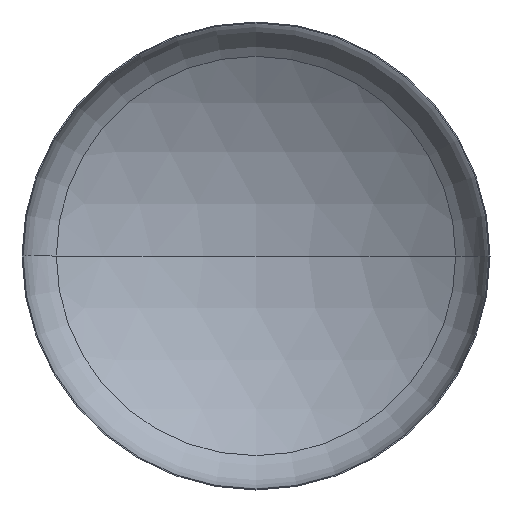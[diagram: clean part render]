
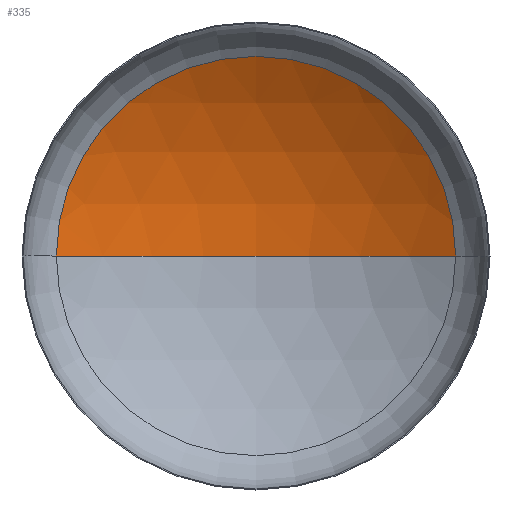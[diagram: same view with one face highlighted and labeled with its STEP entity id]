
A CAD part, front view. The second image highlights one B-rep face of the part: STEP entity #335.
In plain terms, the highlighted spherical face has radius 1520 mm.
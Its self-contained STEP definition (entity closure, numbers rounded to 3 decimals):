
#2 = AXIS2_PLACEMENT_3D ( 'NONE', #233, #403, #259 ) ;
#8 = AXIS2_PLACEMENT_3D ( 'NONE', #130, #349, #394 ) ;
#13 = EDGE_LOOP ( 'NONE', ( #68, #33, #147 ) ) ;
#18 = DIRECTION ( 'NONE',  ( -1., 0., 0. ) ) ;
#19 = AXIS2_PLACEMENT_3D ( 'NONE', #162, #148, #18 ) ;
#23 = VERTEX_POINT ( 'NONE', #244 ) ;
#33 = ORIENTED_EDGE ( 'NONE', *, *, #377, .T. ) ;
#68 = ORIENTED_EDGE ( 'NONE', *, *, #359, .F. ) ;
#87 = VERTEX_POINT ( 'NONE', #221 ) ;
#116 = VERTEX_POINT ( 'NONE', #305 ) ;
#130 = CARTESIAN_POINT ( 'NONE',  ( 0., -1020.463, 0. ) ) ;
#140 = CIRCLE ( 'NONE', #217, 810.667 ) ;
#147 = ORIENTED_EDGE ( 'NONE', *, *, #382, .T. ) ;
#148 = DIRECTION ( 'NONE',  ( 0., 0., -1. ) ) ;
#162 = CARTESIAN_POINT ( 'NONE',  ( 0., -1020.463, 0. ) ) ;
#179 = CARTESIAN_POINT ( 'NONE',  ( 0., 265.312, 0. ) ) ;
#180 = DIRECTION ( 'NONE',  ( 0., -1., 0. ) ) ;
#213 = SPHERICAL_SURFACE ( 'NONE', #19, 1520. ) ;
#217 = AXIS2_PLACEMENT_3D ( 'NONE', #179, #180, #356 ) ;
#221 = CARTESIAN_POINT ( 'NONE',  ( 0., 499.537, 0. ) ) ;
#233 = CARTESIAN_POINT ( 'NONE',  ( 0., -1020.463, 0. ) ) ;
#244 = CARTESIAN_POINT ( 'NONE',  ( -810.667, 265.312, 0. ) ) ;
#259 = DIRECTION ( 'NONE',  ( -1., 0., 0. ) ) ;
#261 = CIRCLE ( 'NONE', #2, 1520. ) ;
#274 = FACE_OUTER_BOUND ( 'NONE', #13, .T. ) ;
#305 = CARTESIAN_POINT ( 'NONE',  ( 810.667, 265.312, 0. ) ) ;
#334 = CIRCLE ( 'NONE', #8, 1520. ) ;
#335 = ADVANCED_FACE ( 'NONE', ( #274 ), #213, .F. ) ;
#349 = DIRECTION ( 'NONE',  ( 0., 0., 1. ) ) ;
#356 = DIRECTION ( 'NONE',  ( 1., 0., 0. ) ) ;
#359 = EDGE_CURVE ( 'NONE', #87, #23, #334, .T. ) ;
#377 = EDGE_CURVE ( 'NONE', #87, #116, #261, .T. ) ;
#382 = EDGE_CURVE ( 'NONE', #116, #23, #140, .T. ) ;
#394 = DIRECTION ( 'NONE',  ( 1., 0., 0. ) ) ;
#403 = DIRECTION ( 'NONE',  ( 0., 0., -1. ) ) ;
